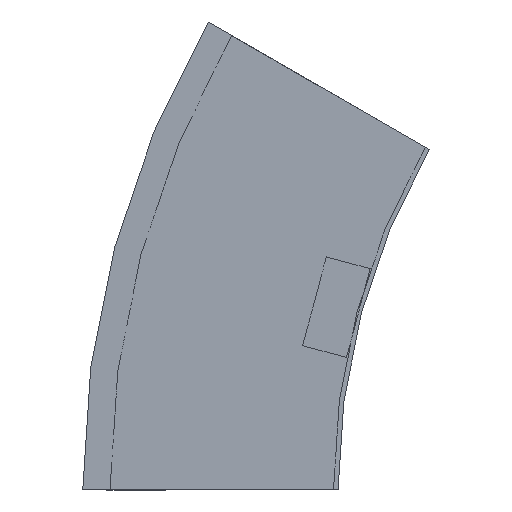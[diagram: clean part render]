
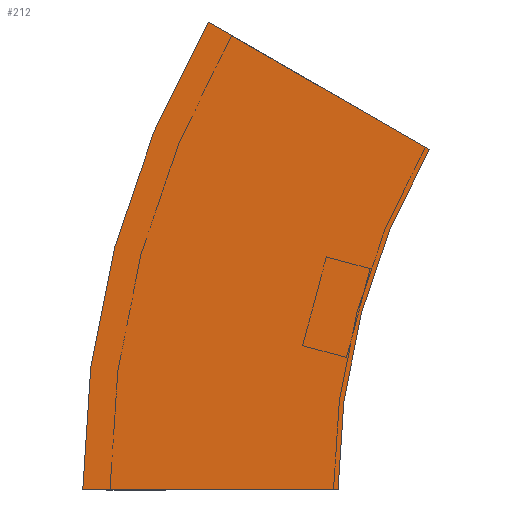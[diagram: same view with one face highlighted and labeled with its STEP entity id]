
A CAD part, left-side view. The second image highlights one B-rep face of the part: STEP entity #212.
In plain terms, the highlighted planar face has unit normal (-1, 0, 0) as drawn and (1, 0, 0) by its records, which use the part's own axes.
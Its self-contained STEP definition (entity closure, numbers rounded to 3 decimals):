
#21 = DIRECTION ( 'NONE',  ( 1., 0., 0. ) ) ;
#37 = AXIS2_PLACEMENT_3D ( 'NONE', #223, #21, #228 ) ;
#51 = VERTEX_POINT ( 'NONE', #102 ) ;
#53 = VECTOR ( 'NONE', #384, 1000. ) ;
#71 = ORIENTED_EDGE ( 'NONE', *, *, #547, .T. ) ;
#78 = EDGE_CURVE ( 'NONE', #533, #81, #511, .T. ) ;
#81 = VERTEX_POINT ( 'NONE', #229 ) ;
#93 = DIRECTION ( 'NONE',  ( 0., 0., -1. ) ) ;
#102 = CARTESIAN_POINT ( 'NONE',  ( 0., 0., 0. ) ) ;
#120 = DIRECTION ( 'NONE',  ( 1., 0., 0. ) ) ;
#122 = CARTESIAN_POINT ( 'NONE',  ( 0., -300., 0. ) ) ;
#172 = DIRECTION ( 'NONE',  ( 0., 1., 0. ) ) ;
#195 = DIRECTION ( 'NONE',  ( 0., 1., 0. ) ) ;
#209 = CARTESIAN_POINT ( 'NONE',  ( 0., -40.192, 150. ) ) ;
#212 = ADVANCED_FACE ( 'NONE', ( #335 ), #522, .T. ) ;
#221 = EDGE_CURVE ( 'NONE', #51, #533, #557, .T. ) ;
#223 = CARTESIAN_POINT ( 'NONE',  ( 0., -300., 0. ) ) ;
#228 = DIRECTION ( 'NONE',  ( 0., 1., 0. ) ) ;
#229 = CARTESIAN_POINT ( 'NONE',  ( 0., 57.235, 206.25 ) ) ;
#241 = LINE ( 'NONE', #334, #378 ) ;
#252 = DIRECTION ( 'NONE',  ( 1., 0., 0. ) ) ;
#275 = AXIS2_PLACEMENT_3D ( 'NONE', #122, #252, #172 ) ;
#280 = CARTESIAN_POINT ( 'NONE',  ( 0., 112.5, 0. ) ) ;
#292 = ORIENTED_EDGE ( 'NONE', *, *, #78, .F. ) ;
#330 = CIRCLE ( 'NONE', #37, 412.5 ) ;
#332 = CARTESIAN_POINT ( 'NONE',  ( 0., -40.192, 150. ) ) ;
#334 = CARTESIAN_POINT ( 'NONE',  ( 0., 0., 0. ) ) ;
#335 = FACE_OUTER_BOUND ( 'NONE', #355, .T. ) ;
#355 = EDGE_LOOP ( 'NONE', ( #496, #292, #361, #71 ) ) ;
#361 = ORIENTED_EDGE ( 'NONE', *, *, #221, .F. ) ;
#378 = VECTOR ( 'NONE', #195, 1000. ) ;
#384 = DIRECTION ( 'NONE',  ( 0., 0.866, 0.5 ) ) ;
#416 = VERTEX_POINT ( 'NONE', #280 ) ;
#428 = AXIS2_PLACEMENT_3D ( 'NONE', #460, #120, #93 ) ;
#460 = CARTESIAN_POINT ( 'NONE',  ( 0., 0., 0. ) ) ;
#492 = EDGE_CURVE ( 'NONE', #416, #81, #330, .T. ) ;
#496 = ORIENTED_EDGE ( 'NONE', *, *, #492, .T. ) ;
#511 = LINE ( 'NONE', #332, #53 ) ;
#522 = PLANE ( 'NONE',  #428 ) ;
#533 = VERTEX_POINT ( 'NONE', #209 ) ;
#547 = EDGE_CURVE ( 'NONE', #51, #416, #241, .T. ) ;
#557 = CIRCLE ( 'NONE', #275, 300. ) ;
